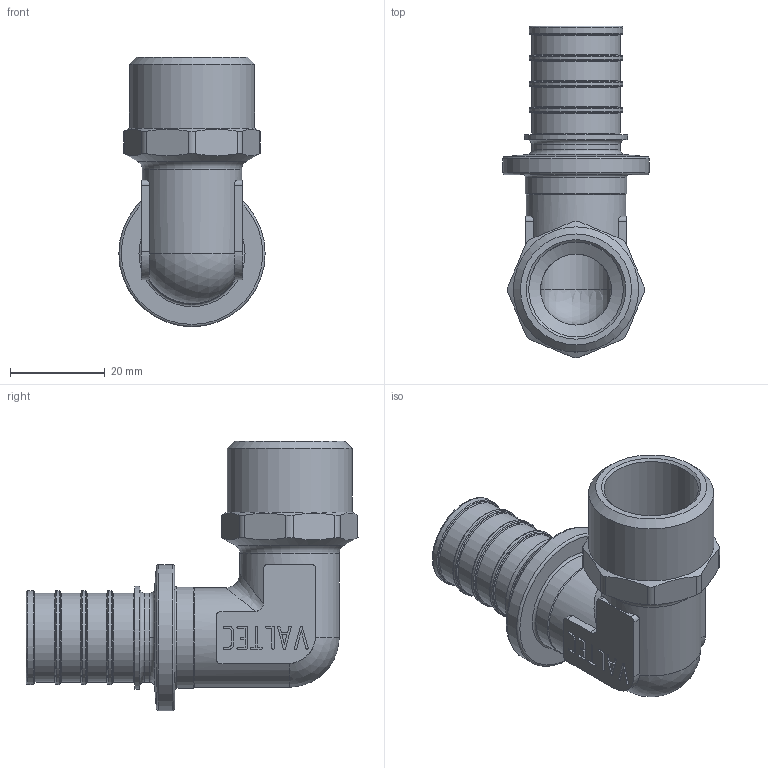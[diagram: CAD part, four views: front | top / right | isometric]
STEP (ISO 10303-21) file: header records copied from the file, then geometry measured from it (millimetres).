
FILE_DESCRIPTION(('STEP AP203'), '1');
FILE_NAME('ﾂﾐ.752212.008 - VTm.453.G.002505 ﾔ頸. 90 胙. 浯葢', '2024-01-24T06:35:08', ('IT'), ('VESTA'), 'C3D Converter', 'C3D Toolkit', '');
FILE_SCHEMA(('CONFIG_CONTROL_DESIGN'));
Length unit declared in the file: millimetre
Products named in the file (1): ВР.752212.008
Bounding box: 30.9 x 70.15 x 56.95 mm (x, y, z)
Volume: 18757.8 mm3; surface area: 13338.6 mm2
Topology: 1 solids, 1 shells, 342 faces, 916 edges, 598 vertices
Faces by surface type: extrusion 142, plane 128, cylinder 38, torus 23, cone 8, sphere 2, bspline 1
Full cylindrical faces by diameter (mm): 15 x2, 18.8 x5, 19.8 x4, 20 x1, 21 x2, 21.4 x1, 21.8 x1, 26.441 x1, 30.9 x1
Entity records: 12165 total; most frequent: CARTESIAN_POINT 4392, ORIENTED_EDGE 1734, DIRECTION 1150, EDGE_CURVE 867, VERTEX_POINT 598, VECTOR 584, B_SPLINE_CURVE_WITH_KNOTS 483, LINE 442
